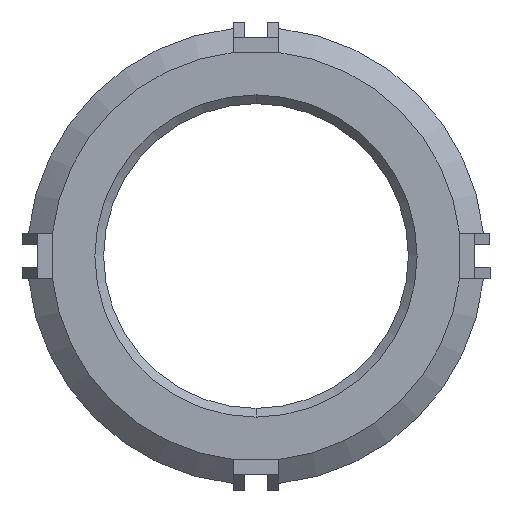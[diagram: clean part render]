
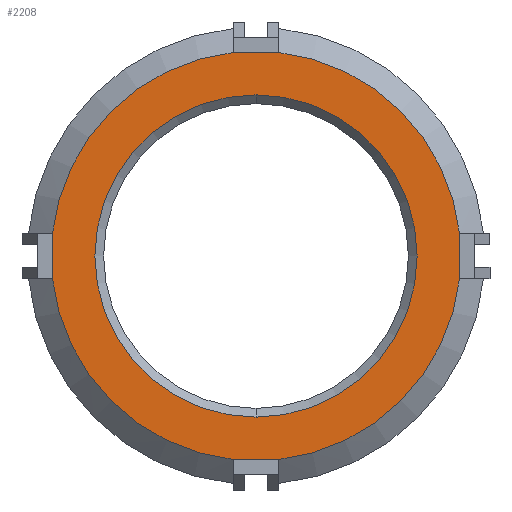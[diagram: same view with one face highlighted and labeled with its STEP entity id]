
A CAD part, front view. The second image highlights one B-rep face of the part: STEP entity #2208.
In plain terms, the highlighted planar face has unit normal (0, -1, 0).
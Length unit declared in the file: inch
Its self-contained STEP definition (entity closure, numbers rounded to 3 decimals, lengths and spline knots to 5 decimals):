
#107 = CARTESIAN_POINT ( 'NONE',  ( 0., 0., 0.26429 ) ) ;
#214 = DIRECTION ( 'NONE',  ( 0., 0., -1. ) ) ;
#235 = VERTEX_POINT ( 'NONE', #5048 ) ;
#258 = CIRCLE ( 'NONE', #2375, 0.26429 ) ;
#321 = ORIENTED_EDGE ( 'NONE', *, *, #2583, .F. ) ;
#349 = VECTOR ( 'NONE', #3636, 39.37008 ) ;
#363 = DIRECTION ( 'NONE',  ( 0., 0., -1. ) ) ;
#377 = CARTESIAN_POINT ( 'NONE',  ( 0., 0., 0. ) ) ;
#655 = ORIENTED_EDGE ( 'NONE', *, *, #2567, .T. ) ;
#673 = CARTESIAN_POINT ( 'NONE',  ( -0.0375, 0., 0.33387 ) ) ;
#763 = CARTESIAN_POINT ( 'NONE',  ( 0., 0., 0. ) ) ;
#854 = CARTESIAN_POINT ( 'NONE',  ( 0.0375, 0., -0.33387 ) ) ;
#877 = VERTEX_POINT ( 'NONE', #4944 ) ;
#984 = CIRCLE ( 'NONE', #3748, 0.33597 ) ;
#989 = VERTEX_POINT ( 'NONE', #673 ) ;
#997 = ORIENTED_EDGE ( 'NONE', *, *, #4563, .T. ) ;
#1088 = AXIS2_PLACEMENT_3D ( 'NONE', #3336, #4028, #4088 ) ;
#1126 = EDGE_CURVE ( 'NONE', #3299, #877, #984, .T. ) ;
#1138 = ORIENTED_EDGE ( 'NONE', *, *, #3155, .F. ) ;
#1142 = FACE_OUTER_BOUND ( 'NONE', #2046, .T. ) ;
#1159 = CARTESIAN_POINT ( 'NONE',  ( -0.33387, 0., -0.0375 ) ) ;
#1194 = DIRECTION ( 'NONE',  ( 0., -1., 0. ) ) ;
#1311 = ORIENTED_EDGE ( 'NONE', *, *, #1126, .T. ) ;
#1510 = EDGE_CURVE ( 'NONE', #2937, #3959, #3934, .T. ) ;
#1528 = CARTESIAN_POINT ( 'NONE',  ( 0., 0., 0. ) ) ;
#1548 = AXIS2_PLACEMENT_3D ( 'NONE', #377, #2136, #5114 ) ;
#1599 = FACE_BOUND ( 'NONE', #3500, .T. ) ;
#1621 = CARTESIAN_POINT ( 'NONE',  ( -0.33387, 0., 0.0375 ) ) ;
#1887 = VERTEX_POINT ( 'NONE', #107 ) ;
#1912 = AXIS2_PLACEMENT_3D ( 'NONE', #1528, #5425, #3296 ) ;
#2024 = AXIS2_PLACEMENT_3D ( 'NONE', #5342, #3616, #3089 ) ;
#2046 = EDGE_LOOP ( 'NONE', ( #997, #3641, #3765, #2475, #3693, #1138, #1311, #321 ) ) ;
#2136 = DIRECTION ( 'NONE',  ( 0., 1., 0. ) ) ;
#2208 = ADVANCED_FACE ( 'NONE', ( #1599, #1142 ), #3168, .F. ) ;
#2301 = CIRCLE ( 'NONE', #3045, 0.33597 ) ;
#2374 = CARTESIAN_POINT ( 'NONE',  ( 0.33387, 0., -0.0375 ) ) ;
#2375 = AXIS2_PLACEMENT_3D ( 'NONE', #3789, #5545, #4333 ) ;
#2475 = ORIENTED_EDGE ( 'NONE', *, *, #2958, .F. ) ;
#2476 = LINE ( 'NONE', #4349, #4134 ) ;
#2540 = DIRECTION ( 'NONE',  ( 0., 0., -1. ) ) ;
#2567 = EDGE_CURVE ( 'NONE', #1887, #5483, #258, .T. ) ;
#2572 = EDGE_CURVE ( 'NONE', #5483, #1887, #2931, .T. ) ;
#2583 = EDGE_CURVE ( 'NONE', #989, #877, #3844, .T. ) ;
#2735 = EDGE_CURVE ( 'NONE', #4676, #3738, #3725, .T. ) ;
#2782 = LINE ( 'NONE', #2374, #5237 ) ;
#2931 = CIRCLE ( 'NONE', #1548, 0.26429 ) ;
#2937 = VERTEX_POINT ( 'NONE', #854 ) ;
#2958 = EDGE_CURVE ( 'NONE', #2937, #235, #2476, .T. ) ;
#2975 = DIRECTION ( 'NONE',  ( 1., 0., 0. ) ) ;
#3016 = VECTOR ( 'NONE', #2975, 39.37008 ) ;
#3045 = AXIS2_PLACEMENT_3D ( 'NONE', #5160, #5557, #363 ) ;
#3089 = DIRECTION ( 'NONE',  ( 0., 0., -1. ) ) ;
#3155 = EDGE_CURVE ( 'NONE', #3299, #3959, #2782, .T. ) ;
#3168 = PLANE ( 'NONE',  #1088 ) ;
#3293 = CARTESIAN_POINT ( 'NONE',  ( 0.33387, 0., -0.0375 ) ) ;
#3296 = DIRECTION ( 'NONE',  ( 0., 0., -1. ) ) ;
#3299 = VERTEX_POINT ( 'NONE', #3449 ) ;
#3336 = CARTESIAN_POINT ( 'NONE',  ( 0., 0., 0. ) ) ;
#3449 = CARTESIAN_POINT ( 'NONE',  ( 0.33387, 0., 0.0375 ) ) ;
#3500 = EDGE_LOOP ( 'NONE', ( #5023, #655 ) ) ;
#3616 = DIRECTION ( 'NONE',  ( 0., -1., 0. ) ) ;
#3636 = DIRECTION ( 'NONE',  ( 0., 0., 1. ) ) ;
#3641 = ORIENTED_EDGE ( 'NONE', *, *, #2735, .F. ) ;
#3693 = ORIENTED_EDGE ( 'NONE', *, *, #1510, .T. ) ;
#3694 = CARTESIAN_POINT ( 'NONE',  ( -0.33387, 0., 0.0375 ) ) ;
#3725 = LINE ( 'NONE', #3694, #349 ) ;
#3738 = VERTEX_POINT ( 'NONE', #1621 ) ;
#3748 = AXIS2_PLACEMENT_3D ( 'NONE', #763, #1194, #2540 ) ;
#3765 = ORIENTED_EDGE ( 'NONE', *, *, #5613, .T. ) ;
#3789 = CARTESIAN_POINT ( 'NONE',  ( 0., 0., 0. ) ) ;
#3844 = LINE ( 'NONE', #5597, #3016 ) ;
#3934 = CIRCLE ( 'NONE', #1912, 0.33597 ) ;
#3959 = VERTEX_POINT ( 'NONE', #3293 ) ;
#4028 = DIRECTION ( 'NONE',  ( 0., 1., 0. ) ) ;
#4049 = CIRCLE ( 'NONE', #2024, 0.33597 ) ;
#4088 = DIRECTION ( 'NONE',  ( 0., 0., 1. ) ) ;
#4134 = VECTOR ( 'NONE', #5506, 39.37008 ) ;
#4333 = DIRECTION ( 'NONE',  ( 0., 0., 1. ) ) ;
#4349 = CARTESIAN_POINT ( 'NONE',  ( -0.0375, 0., -0.33387 ) ) ;
#4563 = EDGE_CURVE ( 'NONE', #989, #3738, #4049, .T. ) ;
#4676 = VERTEX_POINT ( 'NONE', #1159 ) ;
#4944 = CARTESIAN_POINT ( 'NONE',  ( 0.0375, 0., 0.33387 ) ) ;
#5011 = CARTESIAN_POINT ( 'NONE',  ( 0., 0., -0.26429 ) ) ;
#5023 = ORIENTED_EDGE ( 'NONE', *, *, #2572, .T. ) ;
#5048 = CARTESIAN_POINT ( 'NONE',  ( -0.0375, 0., -0.33387 ) ) ;
#5114 = DIRECTION ( 'NONE',  ( 0., 0., 1. ) ) ;
#5160 = CARTESIAN_POINT ( 'NONE',  ( 0., 0., 0. ) ) ;
#5237 = VECTOR ( 'NONE', #214, 39.37008 ) ;
#5342 = CARTESIAN_POINT ( 'NONE',  ( 0., 0., 0. ) ) ;
#5425 = DIRECTION ( 'NONE',  ( 0., -1., 0. ) ) ;
#5483 = VERTEX_POINT ( 'NONE', #5011 ) ;
#5506 = DIRECTION ( 'NONE',  ( -1., 0., 0. ) ) ;
#5545 = DIRECTION ( 'NONE',  ( 0., 1., 0. ) ) ;
#5557 = DIRECTION ( 'NONE',  ( 0., -1., 0. ) ) ;
#5597 = CARTESIAN_POINT ( 'NONE',  ( 0.0375, 0., 0.33387 ) ) ;
#5613 = EDGE_CURVE ( 'NONE', #4676, #235, #2301, .T. ) ;
